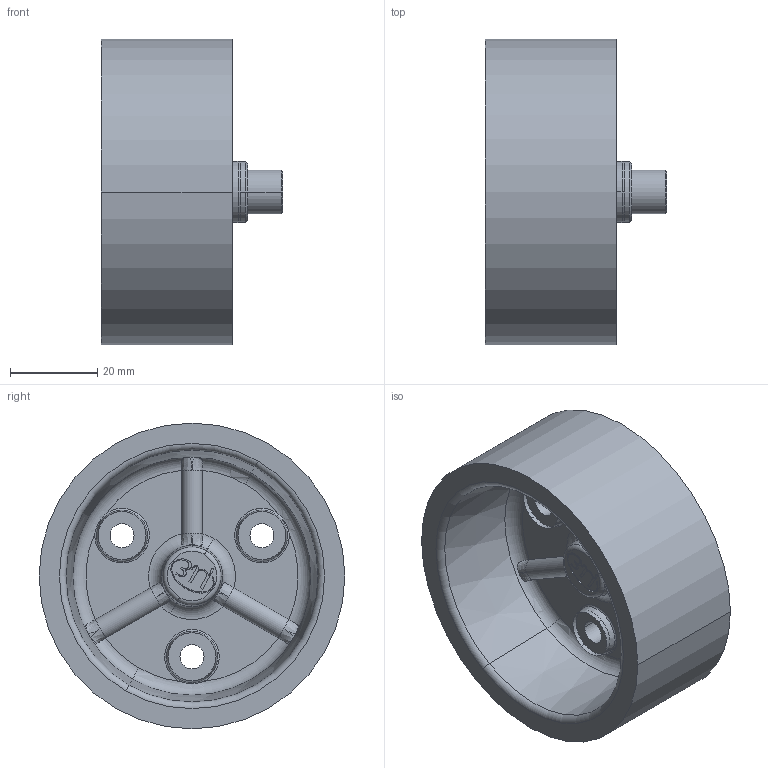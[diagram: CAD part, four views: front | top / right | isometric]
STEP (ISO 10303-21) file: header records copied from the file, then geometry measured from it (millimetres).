
FILE_DESCRIPTION((''),'2;1');
FILE_NAME('EU40_ASM','2008-09-19T',('11000205'),(''),'PRO/ENGINEER BY PARAMETRIC TECHNOLOGY CORPORATION, 2006460','PRO/ENGINEER BY PARAMETRIC TECHNOLOGY CORPORATION, 2006460','');
FILE_SCHEMA(('CONFIG_CONTROL_DESIGN'));
Length unit declared in the file: millimetre
Products named in the file (3): EU40; 0323120_; EU40_ASM
Assembly tree (2 placements, depth 2):
  EU40_ASM
    EU40
    0323120_
Bounding box: 41.5 x 70 x 70 mm (x, y, z)
Volume: 63602.1 mm3; surface area: 22484.5 mm2
Topology: 4 solids, 73 shells, 723 faces, 1555 edges, 987 vertices
Faces by surface type: plane 349, cylinder 202, cone 95, torus 59, bspline 12, extrusion 6
Entity records: 21785 total; most frequent: CARTESIAN_POINT 5894, DIRECTION 3420, ORIENTED_EDGE 3094, EDGE_CURVE 1551, AXIS2_PLACEMENT_3D 1341, VERTEX_POINT 987, EDGE_LOOP 772, VECTOR 738
